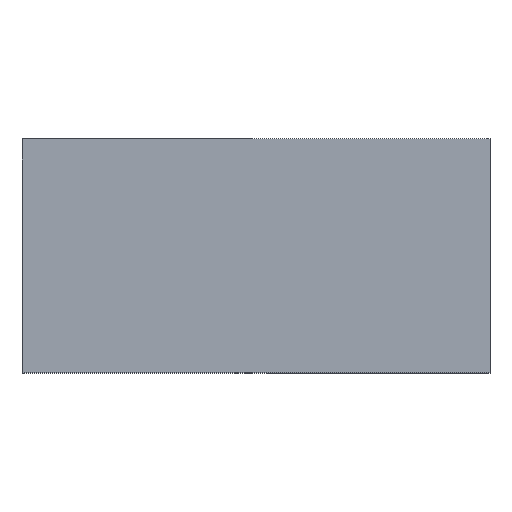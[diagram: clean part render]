
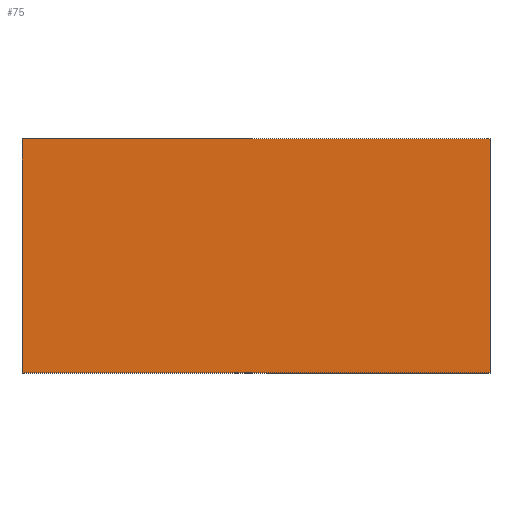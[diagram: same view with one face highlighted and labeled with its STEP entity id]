
A CAD part, top view. The second image highlights one B-rep face of the part: STEP entity #75.
In plain terms, the highlighted planar face has unit normal (0, 0, 1).
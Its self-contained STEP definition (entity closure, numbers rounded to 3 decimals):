
#75=ADVANCED_FACE('',(#115),#555,.T.);
#115=FACE_OUTER_BOUND('',#155,.T.);
#155=EDGE_LOOP('',(#201,#202,#203,#204));
#201=ORIENTED_EDGE('',*,*,#367,.F.);
#202=ORIENTED_EDGE('',*,*,#368,.F.);
#203=ORIENTED_EDGE('',*,*,#369,.F.);
#204=ORIENTED_EDGE('',*,*,#363,.F.);
#363=EDGE_CURVE('',#498,#504,#447,.T.);
#367=EDGE_CURVE('',#502,#498,#451,.T.);
#368=EDGE_CURVE('',#503,#502,#452,.T.);
#369=EDGE_CURVE('',#504,#503,#453,.T.);
#447=B_SPLINE_CURVE_WITH_KNOTS('',1,(#752,#753),.UNSPECIFIED.,.F.,.F.,(2,
2),(0.,900.),.UNSPECIFIED.);
#451=B_SPLINE_CURVE_WITH_KNOTS('',1,(#760,#761),.UNSPECIFIED.,.F.,.F.,(2,
2),(2700.,3600.),.UNSPECIFIED.);
#452=B_SPLINE_CURVE_WITH_KNOTS('',1,(#762,#763),.UNSPECIFIED.,.F.,.F.,(2,
2),(1800.,2700.),.UNSPECIFIED.);
#453=B_SPLINE_CURVE_WITH_KNOTS('',1,(#764,#765),.UNSPECIFIED.,.F.,.F.,(2,
2),(900.,1800.),.UNSPECIFIED.);
#498=VERTEX_POINT('',#741);
#502=VERTEX_POINT('',#745);
#503=VERTEX_POINT('',#746);
#504=VERTEX_POINT('',#747);
#555=PLANE('',#671);
#671=AXIS2_PLACEMENT_3D('',#736,#703,$);
#703=DIRECTION('',(0.,0.,1.));
#736=CARTESIAN_POINT('',(641.288,1046.846,280.));
#741=CARTESIAN_POINT('',(2241.288,1046.846,280.));
#745=CARTESIAN_POINT('',(641.288,1046.846,280.));
#746=CARTESIAN_POINT('',(641.288,246.846,280.));
#747=CARTESIAN_POINT('',(2241.288,246.846,280.));
#752=CARTESIAN_POINT('',(2241.288,1046.846,280.));
#753=CARTESIAN_POINT('',(2241.288,246.846,280.));
#760=CARTESIAN_POINT('',(641.288,1046.846,280.));
#761=CARTESIAN_POINT('',(2241.288,1046.846,280.));
#762=CARTESIAN_POINT('',(641.288,246.846,280.));
#763=CARTESIAN_POINT('',(641.288,1046.846,280.));
#764=CARTESIAN_POINT('',(2241.288,246.846,280.));
#765=CARTESIAN_POINT('',(641.288,246.846,280.));
